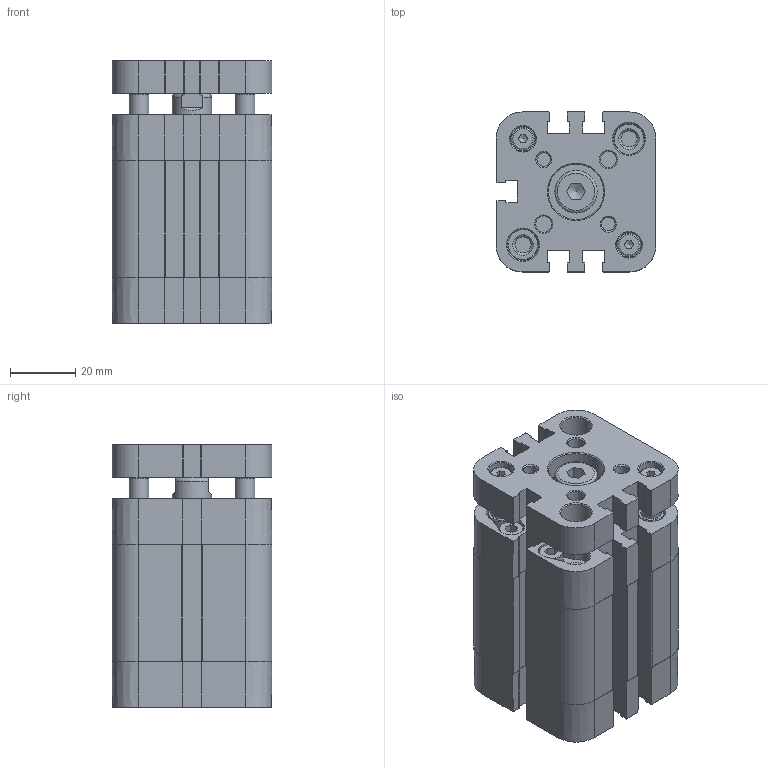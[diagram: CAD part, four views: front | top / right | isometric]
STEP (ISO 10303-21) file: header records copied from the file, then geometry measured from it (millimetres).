
FILE_DESCRIPTION(/* description */ ('Unknown'),/* implementation_level */ '2;1');
FILE_NAME(/* name */ 'ZINT 32_20',/* time_stamp */ '2024-11-12T08:31:16+01:00',/* author */ ('Unknown'),/* organization */ ('HAFNER Pneumatika Kft.'),/* preprocessor_version */ 'ST-DEVELOPER v18.102',/* originating_system */ 'Solid Edge',/* authorisation */ 'Unknown');
FILE_SCHEMA (('AUTOMOTIVE_DESIGN {1 0 10303 214 3 1 1}'));
Length unit declared in the file: millimetre
Products named in the file (7): ZINT 32_20; Führungsstange; Profilrohr; Platte; Kolbenstange; Kit_2; Kit_1
Assembly tree (7 placements, depth 2):
  ZINT 32_20
    Führungsstange  x2
    Profilrohr
    Platte
    Kolbenstange
    Kit_2
    Kit_1
Bounding box: 49 x 49 x 80.5 mm (x, y, z)
Volume: 136094.9 mm3; surface area: 52708.1 mm2
Topology: 7 solids, 13 shells, 866 faces, 2292 edges, 1509 vertices
Faces by surface type: plane 415, cylinder 238, bspline 112, cone 66, torus 35
Full cylindrical faces by diameter (mm): 2.5 x2, 3.242 x2, 4.134 x2, 4.6 x2, 4.917 x6, 5 x2, 5.2 x4, 6 x2, 6.647 x1, 7 x2, 7.5 x10, 8 x2, 8.566 x2, 9 x1, 9.5 x2, 12 x1, 12.54 x1, 13 x1, 13.7 x1, 14 x1, 16.32 x1, 16.5 x1, 17 x1, 32 x2
Entity records: 32113 total; most frequent: CARTESIAN_POINT 6450, ORIENTED_EDGE 4220, DIRECTION 3912, EDGE_CURVE 2110, VERTEX_POINT 1459, AXIS2_PLACEMENT_3D 1318, LINE 1276, VECTOR 1276
